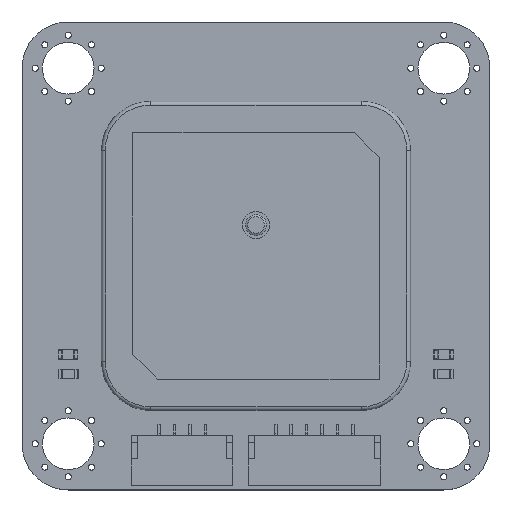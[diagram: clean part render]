
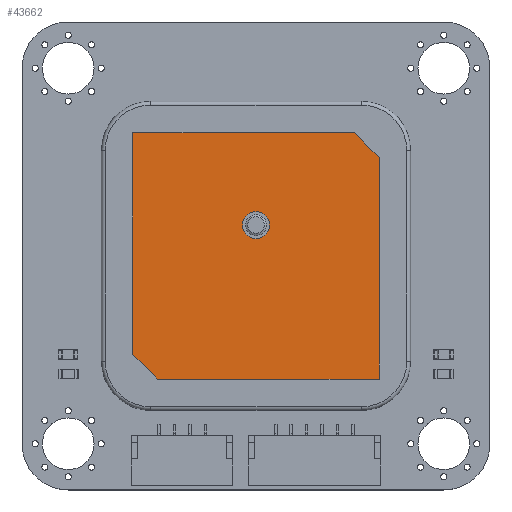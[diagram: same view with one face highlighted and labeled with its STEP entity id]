
A CAD part, top view. The second image highlights one B-rep face of the part: STEP entity #43662.
In plain terms, the highlighted planar face has unit normal (0, 0, 1) as drawn and (0, 1, 0) by its records, which use the part's own axes.
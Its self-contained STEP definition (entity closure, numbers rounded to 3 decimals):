
#3911=FACE_BOUND('',#7860,.T.);
#4086=PLANE('',#46233);
#5499=FACE_OUTER_BOUND('',#7859,.T.);
#7859=EDGE_LOOP('',(#30639,#30640,#30641,#30642,#30643,#30644));
#7860=EDGE_LOOP('',(#30645));
#10384=LINE('',#57219,#14943);
#10387=LINE('',#57225,#14946);
#10390=LINE('',#57231,#14949);
#10393=LINE('',#57237,#14952);
#10396=LINE('',#57243,#14955);
#10399=LINE('',#57247,#14958);
#14943=VECTOR('',#48378,1.);
#14946=VECTOR('',#48383,1.);
#14949=VECTOR('',#48388,1.);
#14952=VECTOR('',#48393,1.);
#14955=VECTOR('',#48398,1.);
#14958=VECTOR('',#48403,1.);
#19500=CIRCLE('',#46226,1.1);
#19933=VERTEX_POINT('',#57209);
#19936=VERTEX_POINT('',#57216);
#19937=VERTEX_POINT('',#57218);
#19939=VERTEX_POINT('',#57224);
#19941=VERTEX_POINT('',#57230);
#19943=VERTEX_POINT('',#57236);
#19945=VERTEX_POINT('',#57242);
#24193=EDGE_CURVE('',#19933,#19933,#19500,.T.);
#24196=EDGE_CURVE('',#19937,#19936,#10384,.T.);
#24199=EDGE_CURVE('',#19939,#19937,#10387,.T.);
#24202=EDGE_CURVE('',#19941,#19939,#10390,.T.);
#24205=EDGE_CURVE('',#19943,#19941,#10393,.T.);
#24208=EDGE_CURVE('',#19945,#19943,#10396,.T.);
#24211=EDGE_CURVE('',#19936,#19945,#10399,.T.);
#30639=ORIENTED_EDGE('',*,*,#24196,.T.);
#30640=ORIENTED_EDGE('',*,*,#24211,.T.);
#30641=ORIENTED_EDGE('',*,*,#24208,.T.);
#30642=ORIENTED_EDGE('',*,*,#24205,.T.);
#30643=ORIENTED_EDGE('',*,*,#24202,.T.);
#30644=ORIENTED_EDGE('',*,*,#24199,.T.);
#30645=ORIENTED_EDGE('',*,*,#24193,.F.);
#43662=ADVANCED_FACE('',(#5499,#3911),#4086,.T.);
#46226=AXIS2_PLACEMENT_3D('',#57211,#48372,#48373);
#46233=AXIS2_PLACEMENT_3D('',#57248,#48404,#48405);
#48372=DIRECTION('center_axis',(0.,1.,0.));
#48373=DIRECTION('ref_axis',(0.,0.,1.));
#48378=DIRECTION('',(0.,0.,1.));
#48383=DIRECTION('',(-1.,0.,0.));
#48388=DIRECTION('',(-0.707,0.,-0.707));
#48393=DIRECTION('',(0.,0.,-1.));
#48398=DIRECTION('',(1.,0.,0.));
#48403=DIRECTION('',(0.707,0.,0.707));
#48404=DIRECTION('center_axis',(0.,1.,0.));
#48405=DIRECTION('ref_axis',(0.,0.,1.));
#57209=CARTESIAN_POINT('',(0.,4.,1.4));
#57211=CARTESIAN_POINT('Origin',(0.,4.,2.5));
#57216=CARTESIAN_POINT('',(-10.,4.,8.));
#57218=CARTESIAN_POINT('',(-10.,4.,-10.));
#57219=CARTESIAN_POINT('',(-10.,4.,8.));
#57224=CARTESIAN_POINT('',(8.,4.,-10.));
#57225=CARTESIAN_POINT('',(8.,4.,-10.));
#57230=CARTESIAN_POINT('',(10.,4.,-8.));
#57231=CARTESIAN_POINT('',(10.,4.,-8.));
#57236=CARTESIAN_POINT('',(10.,4.,10.));
#57237=CARTESIAN_POINT('',(10.,4.,10.));
#57242=CARTESIAN_POINT('',(-8.,4.,10.));
#57243=CARTESIAN_POINT('',(10.,4.,10.));
#57247=CARTESIAN_POINT('',(-8.,4.,10.));
#57248=CARTESIAN_POINT('Origin',(0.,4.,0.));
